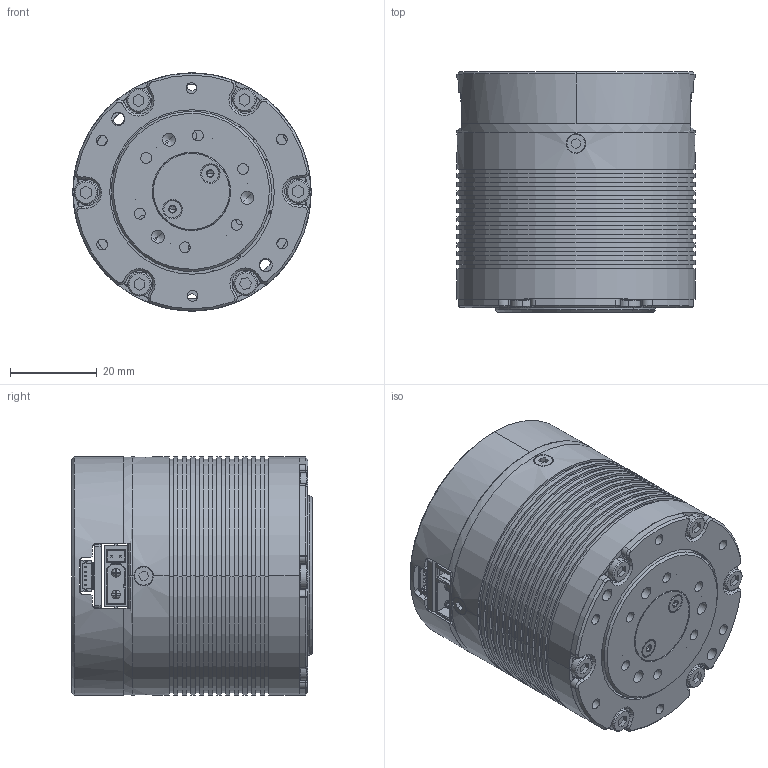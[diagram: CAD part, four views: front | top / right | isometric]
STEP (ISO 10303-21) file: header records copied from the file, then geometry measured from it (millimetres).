
FILE_DESCRIPTION (( 'STEP AP203' ), '1' );
FILE_NAME ('RMD-X4-P12-10-E-L-02 外形图.STEP', '2026-09-20T01:07:27', ( '微软用户' ), ( '微软中国' ), 'SwSTEP 2.0', 'SolidWorks 2020', '' );
FILE_SCHEMA (( 'CONFIG_CONTROL_DESIGN' ));
Length unit declared in the file: millimetre
Products named in the file (27): X4-L 驱动下; M3X10_Default________-6.STEP; M2X3_Default________-10.STEP; M2X3_Default________-11.STEP; MT-X4P12.5-0015-V1_Default_________1.STEP; M3X10_Default________-8.STEP; M2X4-2.STEP; RMD-X4-P12-10-E-L-02 俋倛芞; M2X4.STEP; M2X15_Default________-4.STEP; XMT.105.027.STEP; M3X10_Default________.STEP; X4-L 驱动上; D4X18___Default________.STEP; 8MT.013.210-________ A0.STEP; M2X15_Default________.STEP; ____1_Default________.STEP; MT-X4P12.5-0013-V1_GearTrax.STEP; 8MT.034.123 ________ A1_-1step_Default________.STEP; M3X10_Default________-9.STEP; 56zwco60leg36-3_0_0-01.STEP; 56zwco60leg36-3_0_0-02.STEP; M3X10_Default________-5.STEP; D4X18___Default________-3.STEP; M2X3_Default________.STEP; M3X10_Default________-7.STEP; M2X3_Default________-12.STEP
Assembly tree (26 placements, depth 2):
  RMD-X4-P12-10-E-L-02 俋倛芞
    56zwco60leg36-3_0_0-02.STEP
    ____1_Default________.STEP
    MT-X4P12.5-0015-V1_Default_________1.STEP
    M2X4.STEP
    M2X4-2.STEP
    XMT.105.027.STEP
    MT-X4P12.5-0013-V1_GearTrax.STEP
    56zwco60leg36-3_0_0-01.STEP
    8MT.013.210-________ A0.STEP
    D4X18___Default________.STEP
    D4X18___Default________-3.STEP
    M2X15_Default________.STEP
    M2X15_Default________-4.STEP
    M3X10_Default________.STEP
    M3X10_Default________-5.STEP
    M3X10_Default________-6.STEP
    M3X10_Default________-7.STEP
    M3X10_Default________-8.STEP
    M3X10_Default________-9.STEP
    M2X3_Default________.STEP
    M2X3_Default________-10.STEP
    M2X3_Default________-11.STEP
    M2X3_Default________-12.STEP
    8MT.034.123 ________ A1_-1step_Default________.STEP
    X4-L 驱动上
    X4-L 驱动下
Bounding box: 55 x 55.5 x 55 mm (x, y, z)
Volume: 30839.9 mm3; surface area: 48472.3 mm2
Topology: 56 solids, 56 shells, 3601 faces, 9782 edges, 6377 vertices
Faces by surface type: plane 1489, cylinder 1437, bspline 448, cone 203, sphere 18, torus 6
Entity records: 125220 total; most frequent: CARTESIAN_POINT 30468, ORIENTED_EDGE 19494, DIRECTION 18120, EDGE_CURVE 9747, VERTEX_POINT 6374, AXIS2_PLACEMENT_3D 6339, VECTOR 5442, LINE 5442
